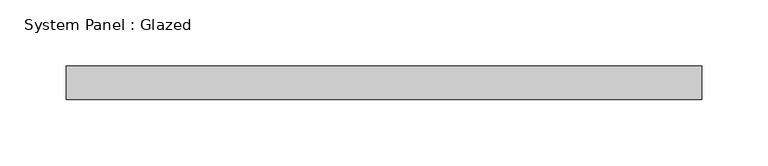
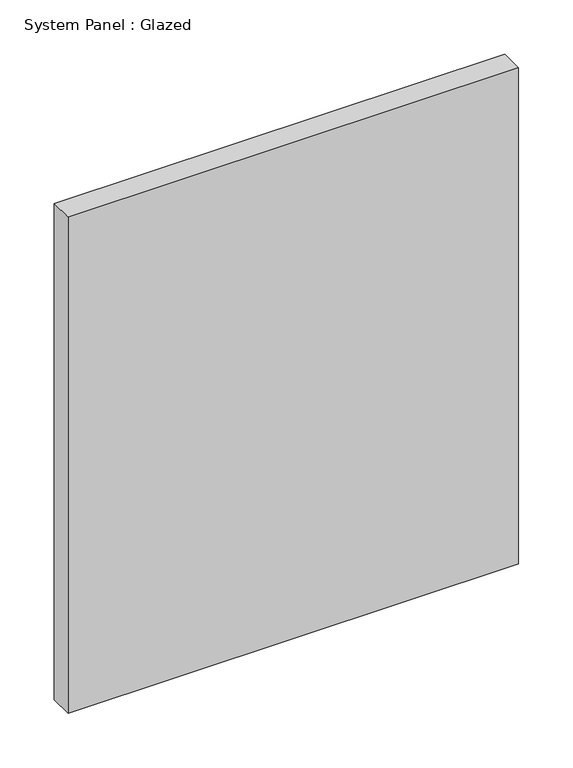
"""IFC4 building model written with IfcOpenShell, lengths in millimetres: plate geometry, System Panel : Glazed."""

from ifc_helpers import new_model, si_unit, origin, origin_with_axes, place, context, project, spatial, polyline, outline, extrude, source, transform, mapped, element, save


def system_panel_glazed_730530c4(model_context):
    return source(origin(), model_context, "Body", "SweptSolid", [
        extrude(outline(polyline([(240.03, -12.7), (-240.03, -12.7), (-240.03, 12.7), (240.03, 12.7), (240.03, -12.7)])), origin_with_axes(), (0.0, 0.0, 1.0), 558.8),
    ])


if __name__ == "__main__":
    model = new_model("IFC4")
    model_context = context("Model", 3, world=origin())
    ifc_project = project(units=[si_unit("LENGTHUNIT", "METRE", prefix="MILLI")], contexts=[model_context])
    site = spatial("IfcSite", under=ifc_project)
    building = spatial("IfcBuilding", under=site)
    placement = place(None, origin())
    system_panel_glazed_shape = system_panel_glazed_730530c4(model_context)
    element("IfcPlate", 1, ObjectType="System Panel : Glazed", at=placement, inside=building, context=model_context, shape_type="MappedRepresentation", body=[
        mapped(system_panel_glazed_shape, transform((0.0, 0.0, 0.0), x_axis=(1.0, 0.0, 0.0), y_axis=(0.0, 1.0, 0.0), z_axis=(0.0, 0.0, 1.0))),
    ])
    save(model, "model.ifc")
